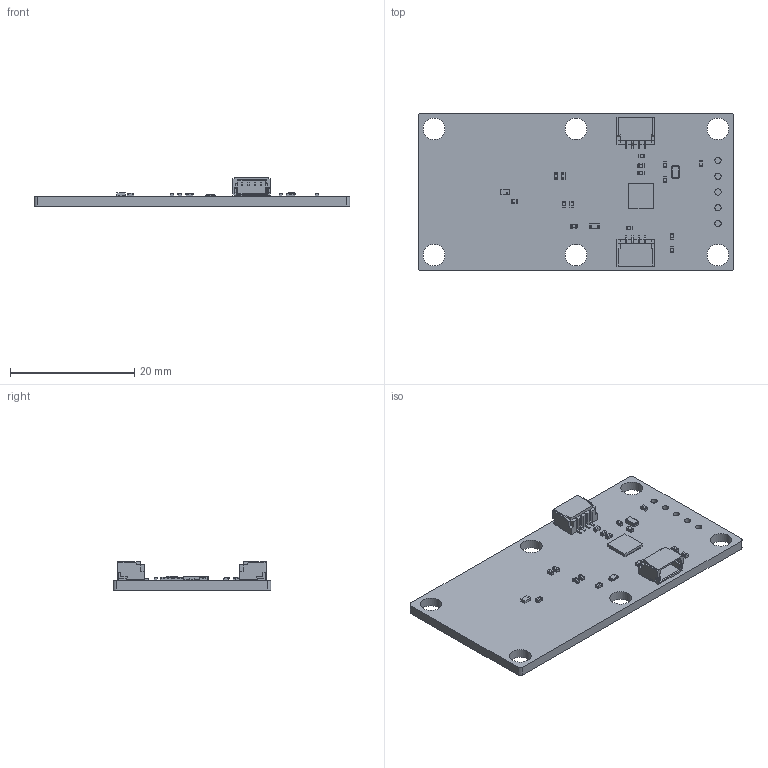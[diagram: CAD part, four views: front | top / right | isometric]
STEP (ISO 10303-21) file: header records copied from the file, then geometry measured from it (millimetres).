
FILE_DESCRIPTION(('STEP AP214'),'1');
FILE_NAME('MagDual_eco.step','2026-07-14T20:13:37',(' '),(' '),'Spatial InterOp 3D','XD3DPlugin XRACreate',' ');
FILE_SCHEMA(('automotive_design'));
Length unit declared in the file: millimetre
Products named in the file (38): DesignRootModel; uid__9223372036936820295; Submodel-noModelForPart_1_PIN_HEADER_3850110376; placementOutline; Submodel-1_PIN_HEADER_3850110376_part_JMP1; Submodel-T:\Core EE\CTB\Cirque - Active 5.19.26\Quiic\Layout\Mag_Dual\MagDual_eco_PCB\3D\ImportedPartModels\GCM1555C1H471FA16D.step; GCM1555C1H471FA16D.xtd; Submodel-RK73G1ETTP3001F_part_RKE_0402; Submodel-GCM155R71A104KA55D_part_RKE_0402; Submodel-T:\Core EE\CTB\Cirque - Active 5.19.26\Quiic\Layout\Mag_Dual\MagDual_eco_PCB\3D\ImportedPartModels\HGDE_M.step; HGDE_M.xtd; Submodel-HGDEDM013A_part_HGDEDM013A-TEMP; Submodel-GCM1555C1H300FA16D_part_RKE_0402; Submodel-noModelForPart_SOLDERJUMPER3_1695375081; Submodel-SOLDERJUMPER3_1695375081_part_SOLDERJUMPER-3_BRIDGED; Submodel-noModelForPart_SOLDERJUMPER1_126423164; Submodel-SOLDERJUMPER1_126423164_part_SOLDERJUMPER_2P1_3MM; Submodel-RK73G1ETTP5100F_part_RKE_0402; Submodel-T:\Core EE\CTB\Cirque - Active 5.19.26\Quiic\Layout\Mag_Dual\MagDual_eco_PCB\3D\ImportedPartModels\LTST-C193KRKT-5A.STEP; LTST-C193KRKT-5A.xtd; Submodel-LTST-C193KRKT-5A_part_RKE_0603_DIODE; Submodel-T:\Core EE\CTB\Cirque - Active 5.19.26\Quiic\Layout\Mag_Dual\MagDual_eco_PCB\3D\ImportedPartModels\STM32G071GBU6.step; STM32G071GBU6.xtd; Submodel-STM32G071GXU_part_UFQFPN_28; Submodel-T:\Core EE\CTB\Cirque - Active 5.19.26\Quiic\Layout\Mag_Dual\MagDual_eco_PCB\3D\ImportedPartModels\SM04B-SRSS-TB.STEP; SM04B-SRSS-TB.xtd; Submodel-SM04B-SRSS-TB_part_CONN_SM04B_SRSS_TB_JST; Submodel-RK73B1ETTP103J_part_RKE_0402; Submodel-GRM155R61A475MEAAD_part_RKE_0402; Submodel-GCM1555C1H5R0BA16D_part_RKE_0402; Submodel-GCM155R71C104JA55D_part_RKE_0402; Submodel-T:\Core EE\CTB\Cirque - Active 5.19.26\Quiic\Layout\Mag_Dual\MagDual_eco_PCB\3D\ImportedPartModels\ECS-.327-6-12RR-TR.STEP; ECS-.327-6-12RR-TR.xtd; Submodel-ECS-R327-6-12RR-TR_part_2012_XTAL; MagDual_eco; MagDual_eco_Copper
Assembly tree (57 placements, depth 5):
  MagDual_eco
    DesignRootModel
      uid__9223372036936820295
      Submodel-1_PIN_HEADER_3850110376_part_JMP1  x5
        Submodel-noModelForPart_1_PIN_HEADER_3850110376
          placementOutline
      Submodel-RK73G1ETTP3001F_part_RKE_0402  x2
        Submodel-T:\Core EE\CTB\Cirque - Active 5.19.26\Quiic\Layout\Mag_Dual\MagDual_eco_PCB\3D\ImportedPartModels\GCM1555C1H471FA16D.step
          GCM1555C1H471FA16D.xtd
      Submodel-GCM155R71A104KA55D_part_RKE_0402  x2
        Submodel-T:\Core EE\CTB\Cirque - Active 5.19.26\Quiic\Layout\Mag_Dual\MagDual_eco_PCB\3D\ImportedPartModels\GCM1555C1H471FA16D.step
          GCM1555C1H471FA16D.xtd
      Submodel-HGDEDM013A_part_HGDEDM013A-TEMP
        Submodel-T:\Core EE\CTB\Cirque - Active 5.19.26\Quiic\Layout\Mag_Dual\MagDual_eco_PCB\3D\ImportedPartModels\HGDE_M.step
          HGDE_M.xtd
      Submodel-GCM1555C1H300FA16D_part_RKE_0402  x2
        Submodel-T:\Core EE\CTB\Cirque - Active 5.19.26\Quiic\Layout\Mag_Dual\MagDual_eco_PCB\3D\ImportedPartModels\GCM1555C1H471FA16D.step
          GCM1555C1H471FA16D.xtd
      Submodel-SOLDERJUMPER3_1695375081_part_SOLDERJUMPER-3_BRIDGED
        Submodel-noModelForPart_SOLDERJUMPER3_1695375081
          placementOutline
      Submodel-SOLDERJUMPER1_126423164_part_SOLDERJUMPER_2P1_3MM  x2
        Submodel-noModelForPart_SOLDERJUMPER1_126423164
          placementOutline
      Submodel-RK73G1ETTP5100F_part_RKE_0402
        Submodel-T:\Core EE\CTB\Cirque - Active 5.19.26\Quiic\Layout\Mag_Dual\MagDual_eco_PCB\3D\ImportedPartModels\GCM1555C1H471FA16D.step
          GCM1555C1H471FA16D.xtd
      Submodel-LTST-C193KRKT-5A_part_RKE_0603_DIODE
        Submodel-T:\Core EE\CTB\Cirque - Active 5.19.26\Quiic\Layout\Mag_Dual\MagDual_eco_PCB\3D\ImportedPartModels\LTST-C193KRKT-5A.STEP
          LTST-C193KRKT-5A.xtd
      Submodel-STM32G071GXU_part_UFQFPN_28
        Submodel-T:\Core EE\CTB\Cirque - Active 5.19.26\Quiic\Layout\Mag_Dual\MagDual_eco_PCB\3D\ImportedPartModels\STM32G071GBU6.step
          STM32G071GBU6.xtd
      Submodel-SM04B-SRSS-TB_part_CONN_SM04B_SRSS_TB_JST  x2
        Submodel-T:\Core EE\CTB\Cirque - Active 5.19.26\Quiic\Layout\Mag_Dual\MagDual_eco_PCB\3D\ImportedPartModels\SM04B-SRSS-TB.STEP
          SM04B-SRSS-TB.xtd
      Submodel-RK73B1ETTP103J_part_RKE_0402  x2
        Submodel-T:\Core EE\CTB\Cirque - Active 5.19.26\Quiic\Layout\Mag_Dual\MagDual_eco_PCB\3D\ImportedPartModels\GCM1555C1H471FA16D.step
          GCM1555C1H471FA16D.xtd
      Submodel-GRM155R61A475MEAAD_part_RKE_0402
        Submodel-T:\Core EE\CTB\Cirque - Active 5.19.26\Quiic\Layout\Mag_Dual\MagDual_eco_PCB\3D\ImportedPartModels\GCM1555C1H471FA16D.step
          GCM1555C1H471FA16D.xtd
      Submodel-GCM1555C1H5R0BA16D_part_RKE_0402  x2
        Submodel-T:\Core EE\CTB\Cirque - Active 5.19.26\Quiic\Layout\Mag_Dual\MagDual_eco_PCB\3D\ImportedPartModels\GCM1555C1H471FA16D.step
          GCM1555C1H471FA16D.xtd
      Submodel-GCM155R71C104JA55D_part_RKE_0402  x3
        Submodel-T:\Core EE\CTB\Cirque - Active 5.19.26\Quiic\Layout\Mag_Dual\MagDual_eco_PCB\3D\ImportedPartModels\GCM1555C1H471FA16D.step
          GCM1555C1H471FA16D.xtd
      Submodel-ECS-R327-6-12RR-TR_part_2012_XTAL
        Submodel-T:\Core EE\CTB\Cirque - Active 5.19.26\Quiic\Layout\Mag_Dual\MagDual_eco_PCB\3D\ImportedPartModels\ECS-.327-6-12RR-TR.STEP
          ECS-.327-6-12RR-TR.xtd
    MagDual_eco_Copper
Bounding box: 50.8 x 25.4 x 4.56 mm (x, y, z)
Volume: 2000.7 mm3; surface area: 3413.7 mm2
Topology: 110 solids, 110 shells, 1949 faces, 4926 edges, 3072 vertices
Faces by surface type: plane 1314, cylinder 511, sphere 120, torus 4
Full cylindrical faces by diameter (mm): 1 x5, 3.5 x6
Entity records: 341410 total; most frequent: ORIENTED_EDGE 66136, DIRECTION 57332, EDGE_CURVE 33068, LINE 32546, VECTOR 32546, CARTESIAN_POINT 26049, VERTEX_POINT 22036, AXIS2_PLACEMENT_3D 12393
